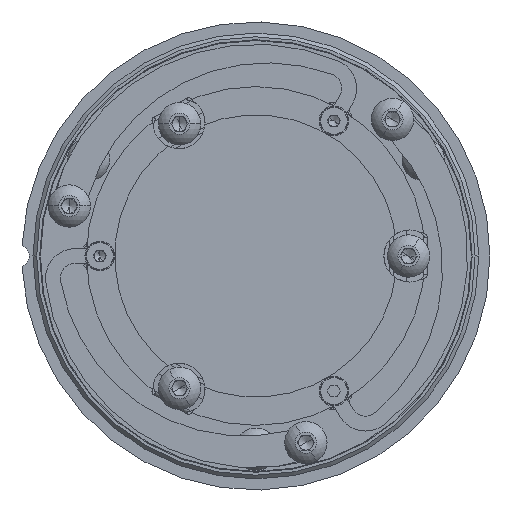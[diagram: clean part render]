
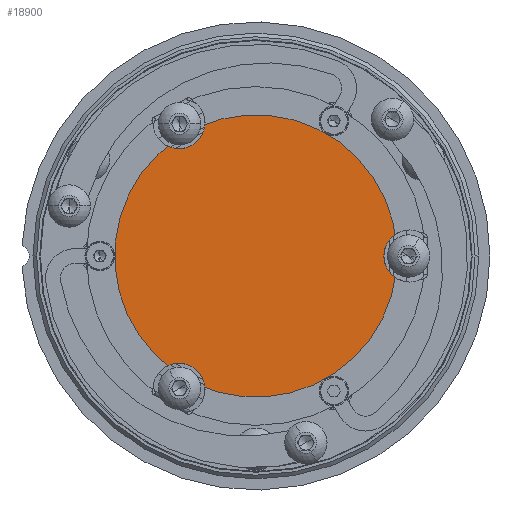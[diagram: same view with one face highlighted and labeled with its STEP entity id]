
A CAD part, front view. The second image highlights one B-rep face of the part: STEP entity #18900.
In plain terms, the highlighted planar face has unit normal (0, -1, 0).
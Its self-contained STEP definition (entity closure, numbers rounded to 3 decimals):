
#80 = CARTESIAN_POINT ( 'NONE',  ( 0., -5.3, 0. ) ) ;
#81 = DIRECTION ( 'NONE',  ( 0., -1., 0. ) ) ;
#82 = DIRECTION ( 'NONE',  ( -0.277, 0., -0.961 ) ) ;
#89 = CARTESIAN_POINT ( 'NONE',  ( 0., -5.3, 0. ) ) ;
#90 = DIRECTION ( 'NONE',  ( 0., -1., 0. ) ) ;
#91 = DIRECTION ( 'NONE',  ( -0.277, 0., -0.961 ) ) ;
#887 = FACE_OUTER_BOUND ( 'NONE', #18325, .T. ) ;
#888 = PLANE ( 'NONE',  #1520 ) ;
#898 = CARTESIAN_POINT ( 'NONE',  ( 0., -5.3, 0. ) ) ;
#899 = DIRECTION ( 'NONE',  ( 0., -1., 0. ) ) ;
#900 = DIRECTION ( 'NONE',  ( -0.277, 0., -0.961 ) ) ;
#1520 = AXIS2_PLACEMENT_3D ( 'NONE', #898, #899, #900 ) ;
#17816 = ORIENTED_EDGE ( 'NONE', *, *, #18836, .T. ) ;
#17817 = ORIENTED_EDGE ( 'NONE', *, *, #18833, .T. ) ;
#18325 = EDGE_LOOP ( 'NONE', ( #17816, #17817 ) ) ;
#18684 = VERTEX_POINT ( 'NONE', #25148 ) ;
#18687 = VERTEX_POINT ( 'NONE', #25151 ) ;
#18833 = EDGE_CURVE ( 'NONE', #18684, #18687, #24718, .T. ) ;
#18836 = EDGE_CURVE ( 'NONE', #18687, #18684, #24723, .T. ) ;
#18900 = ADVANCED_FACE ( 'NONE', ( #887 ), #888, .T. ) ;
#24718 = CIRCLE ( 'NONE', #24724, 19. ) ;
#24723 = CIRCLE ( 'NONE', #24729, 19. ) ;
#24724 = AXIS2_PLACEMENT_3D ( 'NONE', #80, #81, #82 ) ;
#24729 = AXIS2_PLACEMENT_3D ( 'NONE', #89, #90, #91 ) ;
#25148 = CARTESIAN_POINT ( 'NONE',  ( -5.269, -5.3, -18.255 ) ) ;
#25151 = CARTESIAN_POINT ( 'NONE',  ( 5.269, -5.3, 18.255 ) ) ;
